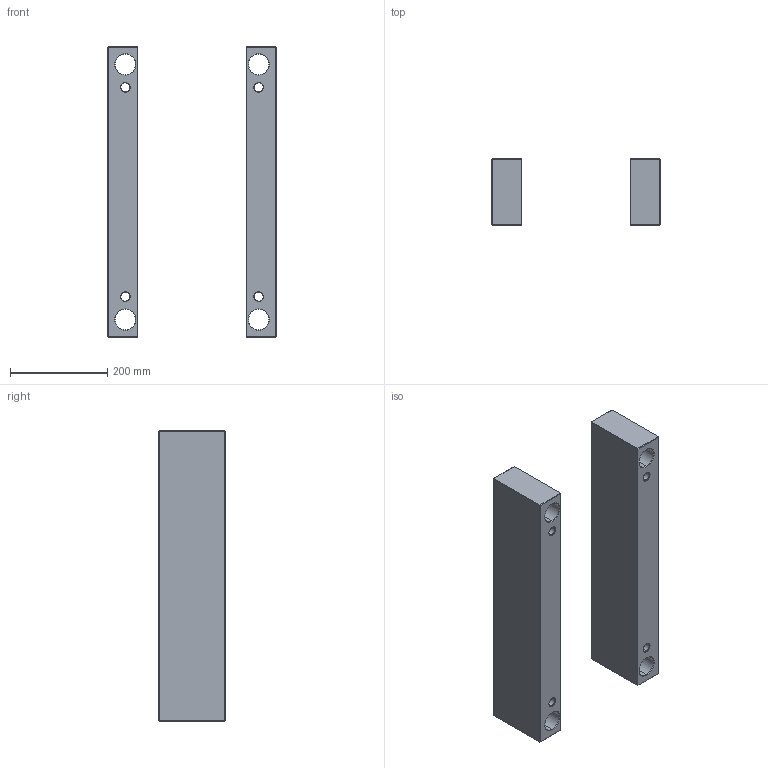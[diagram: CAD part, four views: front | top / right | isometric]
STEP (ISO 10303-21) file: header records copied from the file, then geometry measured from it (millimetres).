
FILE_DESCRIPTION (( 'STEP AP214' ), '1' );
FILE_NAME ('ESP-EU-346X596x136.STEP', '2020-04-16T11:25:32', ( 'August' ), ( '' ), 'SwSTEP 2.0', 'SolidWorks 2018', '' );
FILE_SCHEMA (( 'AUTOMOTIVE_DESIGN' ));
Length unit declared in the file: millimetre
Products named in the file (1): ESP-EU-346X596x136
Bounding box: 346 x 136 x 596 mm (x, y, z)
Volume: 9154896.1 mm3; surface area: 590592.8 mm2
Topology: 2 solids, 2 shells, 100 faces, 208 edges, 112 vertices
Faces by surface type: plane 52, cone 32, cylinder 16
Entity records: 2631 total; most frequent: DIRECTION 474, CARTESIAN_POINT 421, ORIENTED_EDGE 416, EDGE_CURVE 208, AXIS2_PLACEMENT_3D 165, VECTOR 144, LINE 144, EDGE_LOOP 116
